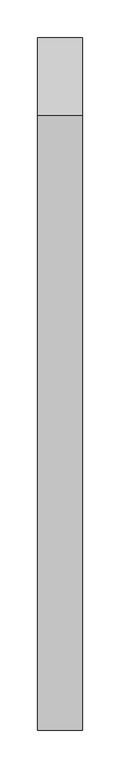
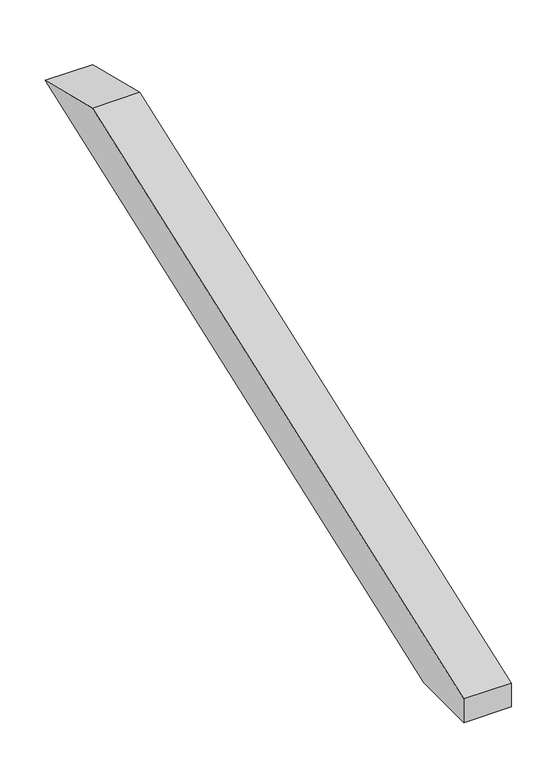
"""IFC4 building model written with IfcOpenShell, lengths in millimetres: proxy geometry, Modelos genéricos 95 : Modelos genéricos 14."""

from ifc_helpers import new_model, si_unit, frame, origin, place, context, project, spatial, polyline, outline, extrude, source, transform, mapped, element, save


def generic_models_8553a941(model_context):
    return source(origin(), model_context, "Body", "SweptSolid", [
        extrude(outline(polyline([(4380.24101, 3463.5158927), (3546.3379485, 3160.0), (3458.6238165, 3160.0), (3458.6238165, 3191.9253332), (4276.1307053, 3489.473507), (4380.24101, 3463.5158927)])), frame((1923.4472467, 0.0, 0.0), z_axis=(1.0, 0.0, 0.0), x_axis=(0.0, 1.0, 0.0)), (0.0, 0.0, 1.0), 60.0),
    ])


if __name__ == "__main__":
    model = new_model("IFC4")
    model_context = context("Model", 3, world=origin())
    ifc_project = project(units=[si_unit("LENGTHUNIT", "METRE", prefix="MILLI")], contexts=[model_context])
    site = spatial("IfcSite", under=ifc_project)
    building = spatial("IfcBuilding", under=site)
    placement = place(None, origin())
    generic_models_shape = generic_models_8553a941(model_context)
    element("IfcBuildingElementProxy", 1, Name="Modelos genéricos 95 : Modelos genéricos 14", ObjectType="Modelos genéricos 95 : Modelos genéricos 14", at=placement, inside=building, context=model_context, shape_type="MappedRepresentation", body=[
        mapped(generic_models_shape, transform((0.0, 0.0, 0.0), x_axis=(1.0, 0.0, 0.0), y_axis=(0.0, 1.0, 0.0), z_axis=(0.0, 0.0, 1.0))),
    ])
    save(model, "model.ifc")
